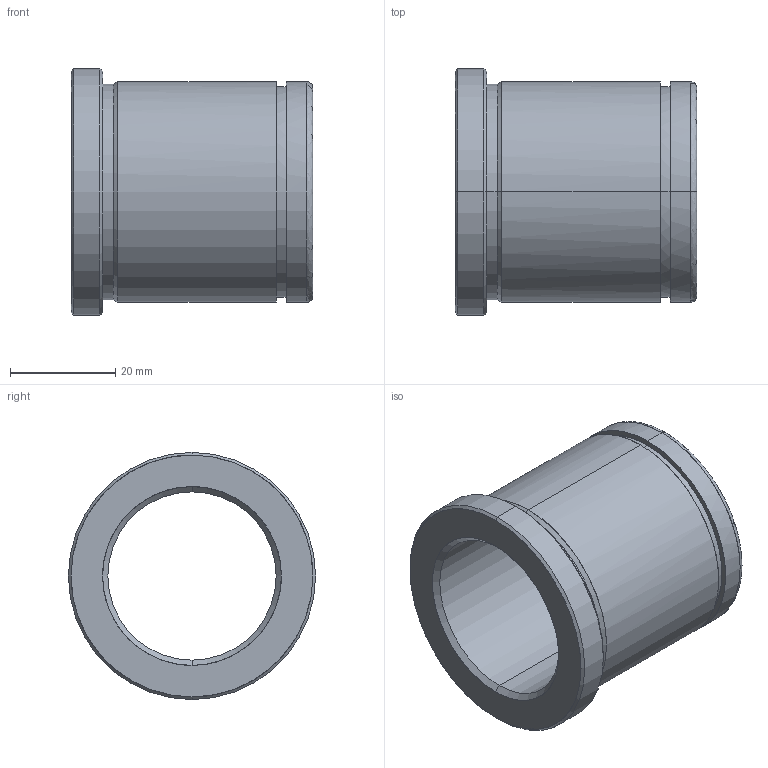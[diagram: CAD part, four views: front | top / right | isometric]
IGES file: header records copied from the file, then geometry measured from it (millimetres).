
Start section: START RECORD GO HERE.
Global section: file name: 553-32X46.igs; native system: DASSAULT SYSTEMES CATIA V5 R20 - www.3ds.com; preprocessor: CATIA Version 5 Release 20 ; author: Utente; organization: NB04-ASUS; date: 20210526.204651; units: millimetre
Bounding box: 46 x 47 x 47 mm (x, y, z)
Surface area: 12652.2 mm2 (no closed solid volume)
Topology: 0 solids, 0 shells, 29 faces, 184 edges, 184 vertices
Faces by surface type: revolution 24, plane 5
